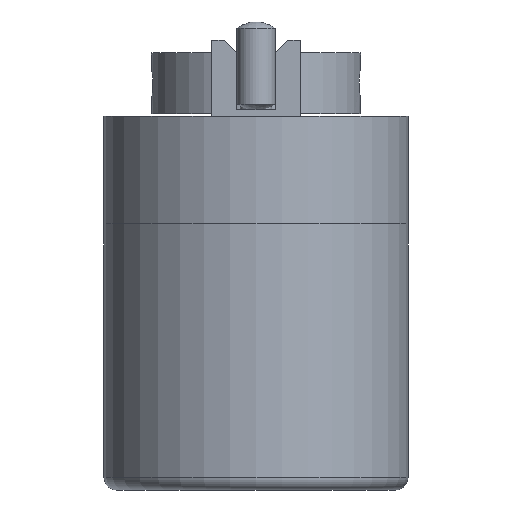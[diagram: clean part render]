
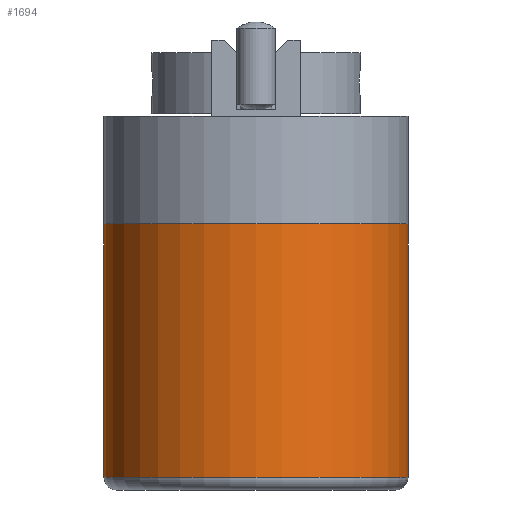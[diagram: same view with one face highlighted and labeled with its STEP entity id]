
A CAD part, left-side view. The second image highlights one B-rep face of the part: STEP entity #1694.
In plain terms, the highlighted cylindrical face has radius 12 mm (diameter 24 mm), a full revolution.
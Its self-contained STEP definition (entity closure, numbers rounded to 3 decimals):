
#32 = VERTEX_POINT ( 'NONE', #1676 ) ;
#40 = VERTEX_POINT ( 'NONE', #1581 ) ;
#58 = FACE_OUTER_BOUND ( 'NONE', #636, .T. ) ;
#65 = VERTEX_POINT ( 'NONE', #1502 ) ;
#123 = FACE_OUTER_BOUND ( 'NONE', #628, .T. ) ;
#142 = CYLINDRICAL_SURFACE ( 'NONE', #722, 12. ) ;
#156 = FACE_BOUND ( 'NONE', #571, .T. ) ;
#227 = CIRCLE ( 'NONE', #388, 12. ) ;
#371 = CIRCLE ( 'NONE', #391, 12. ) ;
#388 = AXIS2_PLACEMENT_3D ( 'NONE', #1073, #1021, #1040 ) ;
#391 = AXIS2_PLACEMENT_3D ( 'NONE', #1405, #1404, #1403 ) ;
#446 = CARTESIAN_POINT ( 'NONE',  ( 11.966, -0.936, 2.016 ) ) ;
#449 = CARTESIAN_POINT ( 'NONE',  ( 11.945, -1.166, 2.086 ) ) ;
#452 = CARTESIAN_POINT ( 'NONE',  ( 11.993, -0.474, 1.924 ) ) ;
#453 = CARTESIAN_POINT ( 'NONE',  ( 12., -0.239, 1.9 ) ) ;
#466 = EDGE_CURVE ( 'NONE', #65, #65, #522, .T. ) ;
#469 = EDGE_CURVE ( 'NONE', #40, #40, #227, .T. ) ;
#508 = CARTESIAN_POINT ( 'NONE',  ( 12., 0., 1.9 ) ) ;
#522 = B_SPLINE_CURVE_WITH_KNOTS ( 'NONE', 3,
 ( #508, #453, #452, #446, #449, #1198, #1201, #1148, #1180, #1184, #1208, #1032, #1038, #1008, #1173, #1034, #1152, #1017, #1070, #991, #1182, #1216, #1202, #1200, #1204, #1018, #1072, #1166, #1163, #1196, #1194, #1025, #1026, #1197, #1195, #1041, #1045, #1042, #1199, #1161, #995, #1001, #1078, #1159, #1164, #1011, #1057, #1051, #1013, #1178, #1075, #1058, #1207, #1031, #1074, #1035, #1076, #1176, #1191, #1023, #1022, #1024, #1193, #996 ),
 .UNSPECIFIED., .T., .F.,
 ( 4, 2, 2, 2, 2, 2, 2, 2, 2, 2, 2, 2, 2, 2, 2, 2, 2, 2, 2, 2, 2, 2, 2, 2, 2, 2, 2, 2, 2, 2, 2, 4 ),
 ( 0., 0.001, 0.001, 0.002, 0.003, 0.004, 0.004, 0.005, 0.006, 0.006, 0.007, 0.008, 0.008, 0.009, 0.01, 0.011, 0.011, 0.012, 0.013, 0.013, 0.014, 0.015, 0.016, 0.016, 0.017, 0.018, 0.018, 0.02, 0.021, 0.021, 0.022, 0.023 ),
 .UNSPECIFIED. ) ;
#546 = EDGE_CURVE ( 'NONE', #32, #32, #371, .T. ) ;
#571 = EDGE_LOOP ( 'NONE', ( #768 ) ) ;
#628 = EDGE_LOOP ( 'NONE', ( #788 ) ) ;
#636 = EDGE_LOOP ( 'NONE', ( #757 ) ) ;
#722 = AXIS2_PLACEMENT_3D ( 'NONE', #957, #958, #956 ) ;
#757 = ORIENTED_EDGE ( 'NONE', *, *, #546, .T. ) ;
#768 = ORIENTED_EDGE ( 'NONE', *, *, #466, .T. ) ;
#788 = ORIENTED_EDGE ( 'NONE', *, *, #469, .F. ) ;
#956 = DIRECTION ( 'NONE',  ( -1., 0., 0. ) ) ;
#957 = CARTESIAN_POINT ( 'NONE',  ( 0., 0., 21. ) ) ;
#958 = DIRECTION ( 'NONE',  ( 0., 0., -1. ) ) ;
#991 = CARTESIAN_POINT ( 'NONE',  ( 11.483, -3.484, 6.437 ) ) ;
#995 = CARTESIAN_POINT ( 'NONE',  ( 11.763, 2.378, 8.213 ) ) ;
#996 = CARTESIAN_POINT ( 'NONE',  ( 12., 0., 1.9 ) ) ;
#1001 = CARTESIAN_POINT ( 'NONE',  ( 11.691, 2.711, 7.881 ) ) ;
#1008 = CARTESIAN_POINT ( 'NONE',  ( 11.505, -3.414, 4.333 ) ) ;
#1011 = CARTESIAN_POINT ( 'NONE',  ( 11.504, 3.415, 6.664 ) ) ;
#1013 = CARTESIAN_POINT ( 'NONE',  ( 11.447, 3.6, 5.738 ) ) ;
#1017 = CARTESIAN_POINT ( 'NONE',  ( 11.447, -3.6, 5.734 ) ) ;
#1018 = CARTESIAN_POINT ( 'NONE',  ( 11.763, -2.379, 8.212 ) ) ;
#1021 = DIRECTION ( 'NONE',  ( 0., 0., 1. ) ) ;
#1022 = CARTESIAN_POINT ( 'NONE',  ( 11.966, 0.938, 2.016 ) ) ;
#1023 = CARTESIAN_POINT ( 'NONE',  ( 11.945, 1.168, 2.087 ) ) ;
#1024 = CARTESIAN_POINT ( 'NONE',  ( 11.993, 0.475, 1.924 ) ) ;
#1025 = CARTESIAN_POINT ( 'NONE',  ( 11.993, -0.476, 9.076 ) ) ;
#1026 = CARTESIAN_POINT ( 'NONE',  ( 12., -0.237, 9.1 ) ) ;
#1031 = CARTESIAN_POINT ( 'NONE',  ( 11.582, 3.144, 3.685 ) ) ;
#1032 = CARTESIAN_POINT ( 'NONE',  ( 11.587, -3.123, 3.693 ) ) ;
#1034 = CARTESIAN_POINT ( 'NONE',  ( 11.455, -3.577, 5.027 ) ) ;
#1035 = CARTESIAN_POINT ( 'NONE',  ( 11.762, 2.382, 2.791 ) ) ;
#1038 = CARTESIAN_POINT ( 'NONE',  ( 11.556, -3.234, 3.901 ) ) ;
#1040 = DIRECTION ( 'NONE',  ( 1., 0., 0. ) ) ;
#1041 = CARTESIAN_POINT ( 'NONE',  ( 11.966, 0.938, 8.984 ) ) ;
#1042 = CARTESIAN_POINT ( 'NONE',  ( 11.895, 1.598, 8.735 ) ) ;
#1045 = CARTESIAN_POINT ( 'NONE',  ( 11.945, 1.163, 8.915 ) ) ;
#1051 = CARTESIAN_POINT ( 'NONE',  ( 11.455, 3.576, 5.978 ) ) ;
#1057 = CARTESIAN_POINT ( 'NONE',  ( 11.483, 3.483, 6.439 ) ) ;
#1058 = CARTESIAN_POINT ( 'NONE',  ( 11.483, 3.485, 4.565 ) ) ;
#1070 = CARTESIAN_POINT ( 'NONE',  ( 11.455, -3.576, 5.974 ) ) ;
#1072 = CARTESIAN_POINT ( 'NONE',  ( 11.798, -2.199, 8.36 ) ) ;
#1073 = CARTESIAN_POINT ( 'NONE',  ( 0., 0., 21. ) ) ;
#1074 = CARTESIAN_POINT ( 'NONE',  ( 11.655, 2.877, 3.286 ) ) ;
#1075 = CARTESIAN_POINT ( 'NONE',  ( 11.455, 3.577, 5.029 ) ) ;
#1076 = CARTESIAN_POINT ( 'NONE',  ( 11.799, 2.198, 2.64 ) ) ;
#1078 = CARTESIAN_POINT ( 'NONE',  ( 11.655, 2.861, 7.697 ) ) ;
#1148 = CARTESIAN_POINT ( 'NONE',  ( 11.799, -2.198, 2.639 ) ) ;
#1152 = CARTESIAN_POINT ( 'NONE',  ( 11.447, -3.6, 5.261 ) ) ;
#1159 = CARTESIAN_POINT ( 'NONE',  ( 11.588, 3.121, 7.31 ) ) ;
#1161 = CARTESIAN_POINT ( 'NONE',  ( 11.799, 2.198, 8.361 ) ) ;
#1163 = CARTESIAN_POINT ( 'NONE',  ( 11.895, -1.6, 8.734 ) ) ;
#1164 = CARTESIAN_POINT ( 'NONE',  ( 11.557, 3.232, 7.103 ) ) ;
#1166 = CARTESIAN_POINT ( 'NONE',  ( 11.864, -1.81, 8.621 ) ) ;
#1173 = CARTESIAN_POINT ( 'NONE',  ( 11.483, -3.484, 4.561 ) ) ;
#1176 = CARTESIAN_POINT ( 'NONE',  ( 11.865, 1.808, 2.378 ) ) ;
#1178 = CARTESIAN_POINT ( 'NONE',  ( 11.447, 3.6, 5.264 ) ) ;
#1180 = CARTESIAN_POINT ( 'NONE',  ( 11.763, -2.381, 2.79 ) ) ;
#1182 = CARTESIAN_POINT ( 'NONE',  ( 11.504, -3.416, 6.662 ) ) ;
#1184 = CARTESIAN_POINT ( 'NONE',  ( 11.691, -2.711, 3.12 ) ) ;
#1191 = CARTESIAN_POINT ( 'NONE',  ( 11.895, 1.602, 2.268 ) ) ;
#1193 = CARTESIAN_POINT ( 'NONE',  ( 12., 0.239, 1.9 ) ) ;
#1194 = CARTESIAN_POINT ( 'NONE',  ( 11.965, -0.941, 8.983 ) ) ;
#1195 = CARTESIAN_POINT ( 'NONE',  ( 11.993, 0.471, 9.077 ) ) ;
#1196 = CARTESIAN_POINT ( 'NONE',  ( 11.945, -1.166, 8.914 ) ) ;
#1197 = CARTESIAN_POINT ( 'NONE',  ( 12., 0.234, 9.1 ) ) ;
#1198 = CARTESIAN_POINT ( 'NONE',  ( 11.895, -1.601, 2.267 ) ) ;
#1199 = CARTESIAN_POINT ( 'NONE',  ( 11.865, 1.808, 8.622 ) ) ;
#1200 = CARTESIAN_POINT ( 'NONE',  ( 11.654, -2.862, 7.696 ) ) ;
#1201 = CARTESIAN_POINT ( 'NONE',  ( 11.865, -1.807, 2.378 ) ) ;
#1202 = CARTESIAN_POINT ( 'NONE',  ( 11.588, -3.122, 7.308 ) ) ;
#1204 = CARTESIAN_POINT ( 'NONE',  ( 11.691, -2.712, 7.879 ) ) ;
#1207 = CARTESIAN_POINT ( 'NONE',  ( 11.504, 3.415, 4.336 ) ) ;
#1208 = CARTESIAN_POINT ( 'NONE',  ( 11.655, -2.86, 3.3 ) ) ;
#1216 = CARTESIAN_POINT ( 'NONE',  ( 11.556, -3.234, 7.1 ) ) ;
#1403 = DIRECTION ( 'NONE',  ( 1., 0., 0. ) ) ;
#1404 = DIRECTION ( 'NONE',  ( 0., 0., 1. ) ) ;
#1405 = CARTESIAN_POINT ( 'NONE',  ( 0., 0., 1. ) ) ;
#1502 = CARTESIAN_POINT ( 'NONE',  ( 12., 0., 1.9 ) ) ;
#1581 = CARTESIAN_POINT ( 'NONE',  ( 12., 0., 21. ) ) ;
#1676 = CARTESIAN_POINT ( 'NONE',  ( 12., 0., 1. ) ) ;
#1694 = ADVANCED_FACE ( 'NONE', ( #156, #58, #123 ), #142, .T. ) ;
